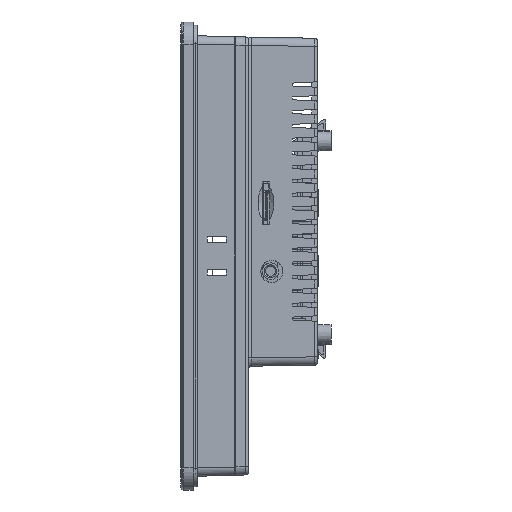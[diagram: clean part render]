
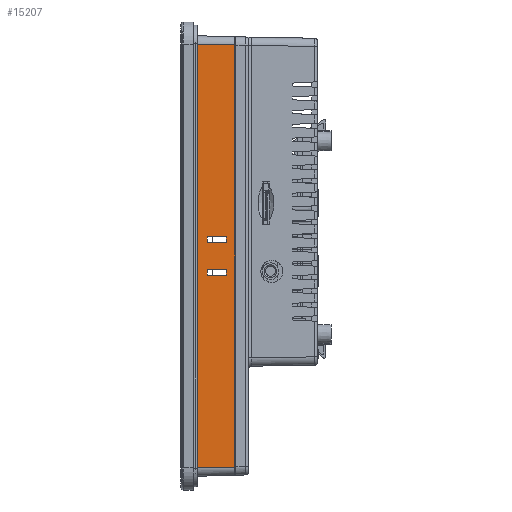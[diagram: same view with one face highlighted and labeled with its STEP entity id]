
A CAD part, left-side view. The second image highlights one B-rep face of the part: STEP entity #15207.
In plain terms, the highlighted planar face has unit normal (-1, -0.018, 0).
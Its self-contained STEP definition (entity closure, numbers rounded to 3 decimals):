
#349 = DIRECTION ( 'NONE',  ( 0.017, -1., 0. ) ) ;
#880 = EDGE_CURVE ( 'NONE', #23191, #15258, #11268, .T. ) ;
#3765 = CARTESIAN_POINT ( 'NONE',  ( -126.952, -2.739, -76.953 ) ) ;
#3938 = EDGE_CURVE ( 'NONE', #35731, #108580, #29754, .T. ) ;
#7693 = DIRECTION ( 'NONE',  ( 0., 0., -1. ) ) ;
#9469 = VECTOR ( 'NONE', #47209, 1000. ) ;
#11268 = LINE ( 'NONE', #65250, #38589 ) ;
#12019 = VERTEX_POINT ( 'NONE', #15261 ) ;
#15207 = ADVANCED_FACE ( 'NONE', ( #48297, #47159, #39655 ), #109817, .T. ) ;
#15258 = VERTEX_POINT ( 'NONE', #50513 ) ;
#15261 = CARTESIAN_POINT ( 'NONE',  ( -126.913, -5., -4.9 ) ) ;
#15780 = CARTESIAN_POINT ( 'NONE',  ( -126.791, -12., 80. ) ) ;
#16223 = CARTESIAN_POINT ( 'NONE',  ( -126.913, -5., 80. ) ) ;
#17072 = CARTESIAN_POINT ( 'NONE',  ( -127., 0., 80. ) ) ;
#17212 = EDGE_LOOP ( 'NONE', ( #67106, #82123, #77491, #35422 ) ) ;
#19087 = LINE ( 'NONE', #78290, #49655 ) ;
#21299 = CARTESIAN_POINT ( 'NONE',  ( -126.913, -5., -7. ) ) ;
#21842 = EDGE_CURVE ( 'NONE', #77940, #108580, #56326, .T. ) ;
#22184 = CARTESIAN_POINT ( 'NONE',  ( -127., 0., -4.9 ) ) ;
#22263 = VECTOR ( 'NONE', #76644, 1000. ) ;
#22569 = VECTOR ( 'NONE', #65346, 1000. ) ;
#23090 = LINE ( 'NONE', #39828, #59280 ) ;
#23191 = VERTEX_POINT ( 'NONE', #25229 ) ;
#23898 = ORIENTED_EDGE ( 'NONE', *, *, #880, .F. ) ;
#24357 = ORIENTED_EDGE ( 'NONE', *, *, #65882, .F. ) ;
#24936 = LINE ( 'NONE', #16223, #65807 ) ;
#24940 = LINE ( 'NONE', #42249, #22263 ) ;
#25229 = CARTESIAN_POINT ( 'NONE',  ( -126.791, -12., 7. ) ) ;
#26047 = VERTEX_POINT ( 'NONE', #79421 ) ;
#29754 = LINE ( 'NONE', #3765, #33647 ) ;
#32434 = LINE ( 'NONE', #66859, #38056 ) ;
#33647 = VECTOR ( 'NONE', #38926, 1000. ) ;
#34380 = EDGE_CURVE ( 'NONE', #77549, #12019, #65796, .T. ) ;
#35422 = ORIENTED_EDGE ( 'NONE', *, *, #93580, .F. ) ;
#35731 = VERTEX_POINT ( 'NONE', #51014 ) ;
#37453 = EDGE_CURVE ( 'NONE', #77940, #50633, #24940, .T. ) ;
#38056 = VECTOR ( 'NONE', #49113, 1000. ) ;
#38589 = VECTOR ( 'NONE', #74459, 1000. ) ;
#38926 = DIRECTION ( 'NONE',  ( 0.017, -1., 0.017 ) ) ;
#39655 = FACE_BOUND ( 'NONE', #17212, .T. ) ;
#39828 = CARTESIAN_POINT ( 'NONE',  ( -126.791, -12., 80. ) ) ;
#39933 = EDGE_LOOP ( 'NONE', ( #53039, #44916, #68669, #100140 ) ) ;
#40474 = CARTESIAN_POINT ( 'NONE',  ( -126.738, -15., -76.739 ) ) ;
#40477 = EDGE_LOOP ( 'NONE', ( #23898, #24357, #45870, #57196 ) ) ;
#41200 = VERTEX_POINT ( 'NONE', #21299 ) ;
#42249 = CARTESIAN_POINT ( 'NONE',  ( -127.001, 0.052, 77.001 ) ) ;
#42847 = VECTOR ( 'NONE', #101544, 1000. ) ;
#44916 = ORIENTED_EDGE ( 'NONE', *, *, #3938, .T. ) ;
#45870 = ORIENTED_EDGE ( 'NONE', *, *, #54711, .F. ) ;
#46075 = EDGE_CURVE ( 'NONE', #41200, #113282, #78498, .T. ) ;
#47159 = FACE_OUTER_BOUND ( 'NONE', #39933, .T. ) ;
#47209 = DIRECTION ( 'NONE',  ( 0., 0., -1. ) ) ;
#48297 = FACE_BOUND ( 'NONE', #40477, .T. ) ;
#49113 = DIRECTION ( 'NONE',  ( 0., 0., -1. ) ) ;
#49655 = VECTOR ( 'NONE', #62194, 1000. ) ;
#49836 = VECTOR ( 'NONE', #105565, 1000. ) ;
#50513 = CARTESIAN_POINT ( 'NONE',  ( -126.913, -5., 7. ) ) ;
#50633 = VERTEX_POINT ( 'NONE', #97845 ) ;
#51001 = CARTESIAN_POINT ( 'NONE',  ( -127., 0., -7. ) ) ;
#51014 = CARTESIAN_POINT ( 'NONE',  ( -127.026, 1.5, -77.027 ) ) ;
#53039 = ORIENTED_EDGE ( 'NONE', *, *, #67480, .T. ) ;
#53154 = CARTESIAN_POINT ( 'NONE',  ( -126.738, -15., 76.739 ) ) ;
#54711 = EDGE_CURVE ( 'NONE', #98750, #26047, #19087, .T. ) ;
#56326 = LINE ( 'NONE', #58569, #9469 ) ;
#57196 = ORIENTED_EDGE ( 'NONE', *, *, #82737, .F. ) ;
#58134 = DIRECTION ( 'NONE',  ( 0., 0., 1. ) ) ;
#58569 = CARTESIAN_POINT ( 'NONE',  ( -126.738, -15., 80. ) ) ;
#59280 = VECTOR ( 'NONE', #58134, 1000. ) ;
#62194 = DIRECTION ( 'NONE',  ( 0.017, -1., 0. ) ) ;
#64623 = EDGE_CURVE ( 'NONE', #113282, #77549, #76764, .T. ) ;
#64783 = CARTESIAN_POINT ( 'NONE',  ( -126.913, -5., 80. ) ) ;
#65250 = CARTESIAN_POINT ( 'NONE',  ( -127., 0., 7. ) ) ;
#65346 = DIRECTION ( 'NONE',  ( 0., 0., -1. ) ) ;
#65796 = LINE ( 'NONE', #22184, #42847 ) ;
#65807 = VECTOR ( 'NONE', #7693, 1000. ) ;
#65882 = EDGE_CURVE ( 'NONE', #26047, #23191, #23090, .T. ) ;
#66859 = CARTESIAN_POINT ( 'NONE',  ( -127.026, 1.5, -77. ) ) ;
#67106 = ORIENTED_EDGE ( 'NONE', *, *, #34380, .F. ) ;
#67480 = EDGE_CURVE ( 'NONE', #50633, #35731, #32434, .T. ) ;
#68264 = DIRECTION ( 'NONE',  ( 0.017, -1., 0. ) ) ;
#68669 = ORIENTED_EDGE ( 'NONE', *, *, #21842, .F. ) ;
#74459 = DIRECTION ( 'NONE',  ( -0.017, 1., 0. ) ) ;
#76644 = DIRECTION ( 'NONE',  ( -0.017, 1., 0.017 ) ) ;
#76764 = LINE ( 'NONE', #15780, #49836 ) ;
#77491 = ORIENTED_EDGE ( 'NONE', *, *, #46075, .F. ) ;
#77549 = VERTEX_POINT ( 'NONE', #95267 ) ;
#77940 = VERTEX_POINT ( 'NONE', #53154 ) ;
#78290 = CARTESIAN_POINT ( 'NONE',  ( -127., 0., 4.9 ) ) ;
#78498 = LINE ( 'NONE', #51001, #84433 ) ;
#79421 = CARTESIAN_POINT ( 'NONE',  ( -126.791, -12., 4.9 ) ) ;
#81447 = LINE ( 'NONE', #64783, #22569 ) ;
#82123 = ORIENTED_EDGE ( 'NONE', *, *, #64623, .F. ) ;
#82737 = EDGE_CURVE ( 'NONE', #15258, #98750, #81447, .T. ) ;
#84433 = VECTOR ( 'NONE', #349, 1000. ) ;
#86097 = DIRECTION ( 'NONE',  ( -1., -0.017, 0. ) ) ;
#93580 = EDGE_CURVE ( 'NONE', #12019, #41200, #24936, .T. ) ;
#95164 = CARTESIAN_POINT ( 'NONE',  ( -126.791, -12., -7. ) ) ;
#95267 = CARTESIAN_POINT ( 'NONE',  ( -126.791, -12., -4.9 ) ) ;
#97845 = CARTESIAN_POINT ( 'NONE',  ( -127.026, 1.5, 77.027 ) ) ;
#98750 = VERTEX_POINT ( 'NONE', #101491 ) ;
#100140 = ORIENTED_EDGE ( 'NONE', *, *, #37453, .T. ) ;
#101491 = CARTESIAN_POINT ( 'NONE',  ( -126.913, -5., 4.9 ) ) ;
#101544 = DIRECTION ( 'NONE',  ( -0.017, 1., 0. ) ) ;
#105565 = DIRECTION ( 'NONE',  ( 0., 0., 1. ) ) ;
#105670 = AXIS2_PLACEMENT_3D ( 'NONE', #17072, #86097, #68264 ) ;
#108580 = VERTEX_POINT ( 'NONE', #40474 ) ;
#109817 = PLANE ( 'NONE',  #105670 ) ;
#113282 = VERTEX_POINT ( 'NONE', #95164 ) ;
